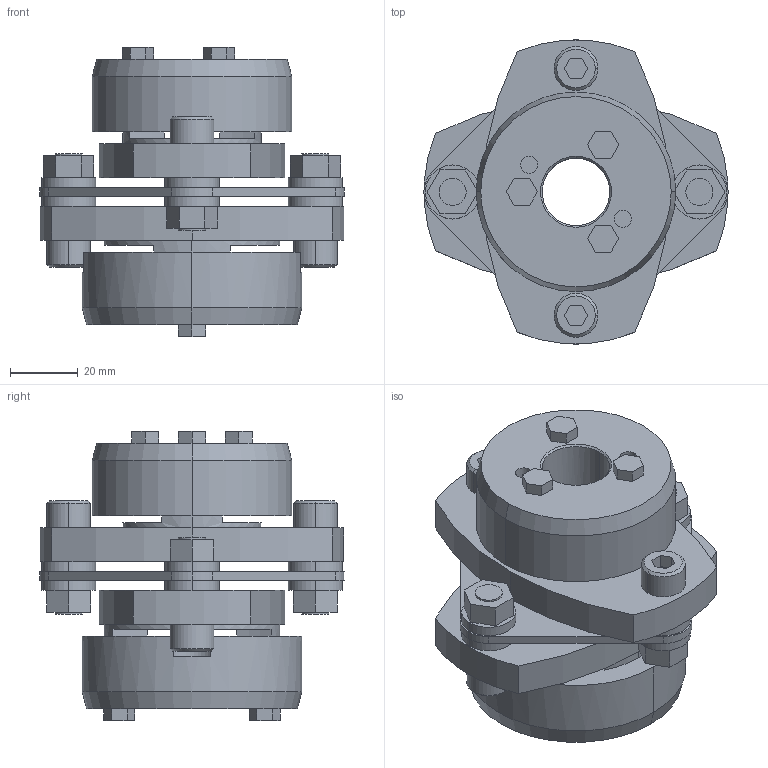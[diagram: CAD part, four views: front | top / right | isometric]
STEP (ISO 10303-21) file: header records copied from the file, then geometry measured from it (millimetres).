
FILE_DESCRIPTION((''),'2;1');
FILE_NAME('LCS-90T7-20×30.stp','2011-09-09T10:00:38',(''),(''),'AutoCAD STEP 2000i','AutoCAD 2000i',', , ');
FILE_SCHEMA(('CONFIG_CONTROL_DESIGN'));
Length unit declared in the file: millimetre
Products named in the file (9): LCS-90T7-19×30; 忣兜1; LC90T7-T030; LC90T7-T025; LC90T7-T019-1; LC90T7-T019; LC90-B019-1; LC90-B019; LCS90-ITA
Assembly tree (8 placements, depth 2):
  LCS-90T7-19×30
    忣兜1
    LC90T7-T030
    LC90T7-T025
    LC90T7-T019-1
    LC90T7-T019
    LC90-B019-1
    LC90-B019
    LCS90-ITA
Bounding box: 90 x 89.94 x 85.5 mm (x, y, z)
Volume: 206996.8 mm3; surface area: 53329.6 mm2
Topology: 1 solids, 1 shells, 229 faces, 562 edges, 368 vertices
Faces by surface type: plane 127, cylinder 82, cone 20
Entity records: 7023 total; most frequent: DIRECTION 1242, CARTESIAN_POINT 1168, ORIENTED_EDGE 1124, EDGE_CURVE 562, AXIS2_PLACEMENT_3D 442, VERTEX_POINT 368, VECTOR 358, LINE 358
